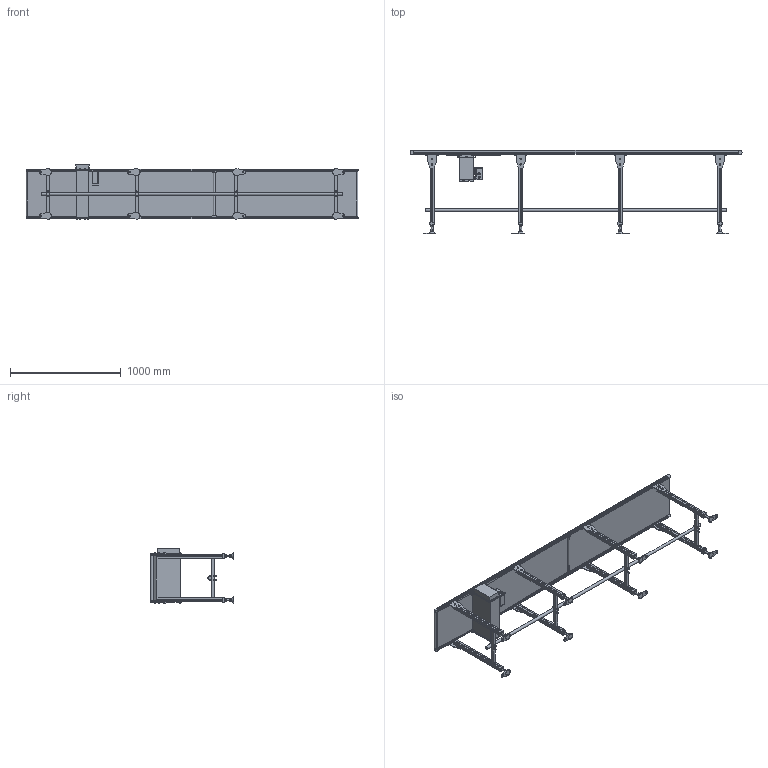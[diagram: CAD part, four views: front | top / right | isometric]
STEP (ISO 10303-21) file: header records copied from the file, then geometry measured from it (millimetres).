
FILE_DESCRIPTION (( 'STEP AP214' ), '1' );
FILE_NAME ('MMX200-SD2-400-3000.STEP', '2023-04-20T08:36:42', ( '' ), ( '' ), 'SwSTEP 2.0', 'SolidWorks 2017', '' );
FILE_SCHEMA (( 'AUTOMOTIVE_DESIGN' ));
Length unit declared in the file: millimetre
Products named in the file (1): MMX200-SD2-400-3000
Bounding box: 3000 x 752 x 494.6 mm (x, y, z)
Volume: 38226843 mm3; surface area: 11638756 mm2
Topology: 105 solids, 105 shells, 2175 faces, 5098 edges, 3329 vertices
Faces by surface type: plane 1677, cylinder 360, cone 102, torus 20, bspline 11, sphere 5
Full cylindrical faces by diameter (mm): 4 x2, 4.2 x14, 4.3 x2, 4.5 x2, 5 x12, 5.5 x8, 6 x9, 6.5 x2, 7 x12, 8 x18, 8.5 x4, 9 x2, 9.5 x4, 10 x8, 12.2 x40, 12.5 x40, 13 x8, 16 x8, 17 x9, 18 x1, 19 x1, 25.4 x1, 26 x2, 27.2 x2, 30 x8
Entity records: 85848 total; most frequent: CARTESIAN_POINT 12132, DIRECTION 9741, ORIENTED_EDGE 9462, EDGE_CURVE 4731, LINE 3665, VECTOR 3665, VERTEX_POINT 3248, AXIS2_PLACEMENT_3D 3038
